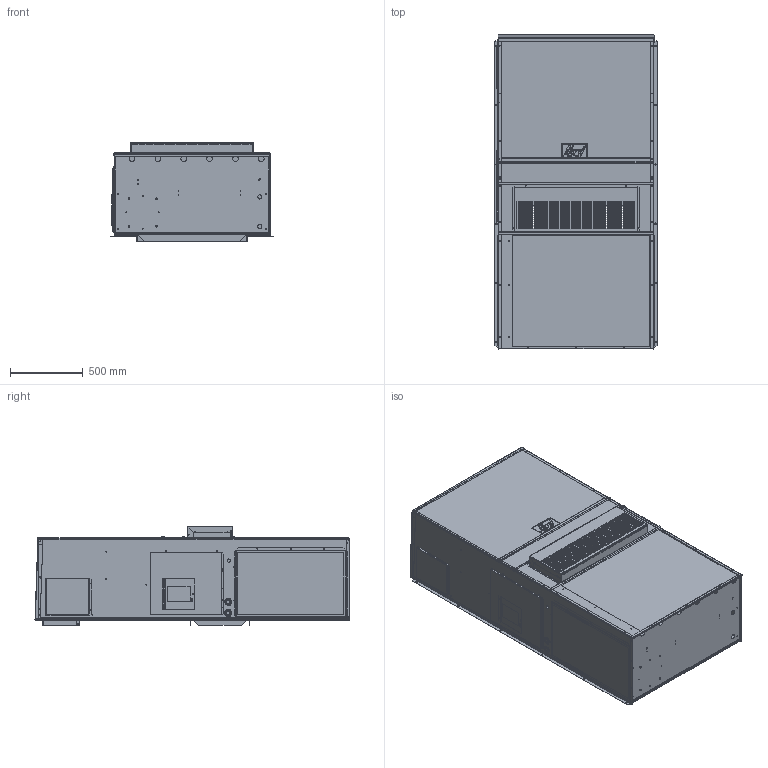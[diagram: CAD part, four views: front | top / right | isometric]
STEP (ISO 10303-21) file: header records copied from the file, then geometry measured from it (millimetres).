
FILE_DESCRIPTION (( 'STEP AP203' ), '1' );
FILE_NAME ('STEP_1100_3.STEP', '2016-06-28T21:06:15', ( 'BMC' ), ( 'Bard Manufacturing Co., Inc.' ), 'SwSTEP 2.0', 'SolidWorks 2016', '' );
FILE_SCHEMA (( 'CONFIG_CONTROL_DESIGN' ));
Products named in the file (1): STEP_1100_3
Bounding box: 1114 x 2155.74 x 678.36 mm (x, y, z)
Surface area: 18381135.5 mm2 (no closed solid volume)
Topology: 0 solids, 40 shells, 3619 faces, 9889 edges, 6415 vertices
Faces by surface type: plane 1743, cylinder 1074, torus 705, bspline 97
Entity records: 126243 total; most frequent: CARTESIAN_POINT 29951, DIRECTION 20508, ORIENTED_EDGE 19770, EDGE_CURVE 9889, AXIS2_PLACEMENT_3D 7404, VERTEX_POINT 6415, LINE 5700, VECTOR 5700
